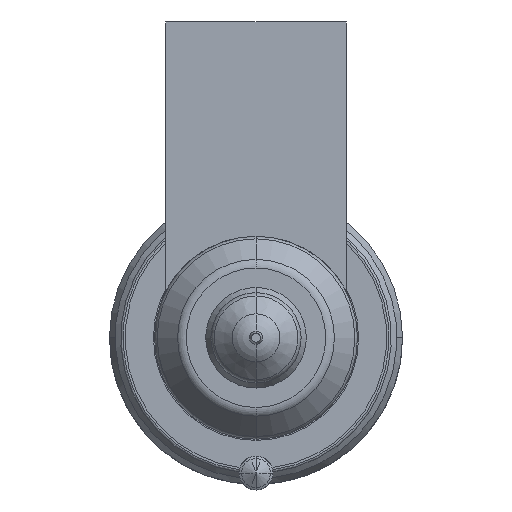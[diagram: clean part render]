
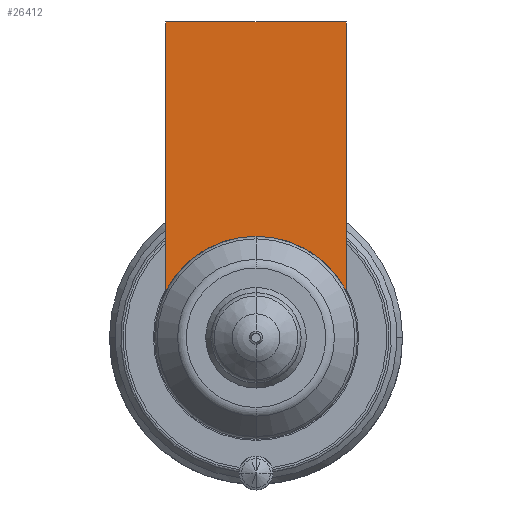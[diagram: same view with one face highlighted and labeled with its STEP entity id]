
A CAD part, front view. The second image highlights one B-rep face of the part: STEP entity #26412.
In plain terms, the highlighted planar face has unit normal (0, -1, 0).
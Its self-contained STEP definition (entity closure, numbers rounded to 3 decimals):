
#25529=DIRECTION('',(1.,0.,0.));
#25530=VECTOR('',#25529,16.);
#25531=CARTESIAN_POINT('',(-8.,-54.,28.));
#25532=LINE('',#25531,#25530);
#25537=CARTESIAN_POINT('',(0.,-54.,0.));
#25538=DIRECTION('',(0.,-1.,0.));
#25539=DIRECTION('',(0.889,0.,0.458));
#25540=AXIS2_PLACEMENT_3D('',#25537,#25538,#25539);
#25545=CARTESIAN_POINT('',(0.,-54.,0.));
#25546=DIRECTION('',(0.,-1.,0.));
#25547=DIRECTION('',(0.,0.,1.));
#25548=AXIS2_PLACEMENT_3D('',#25545,#25546,#25547);
#25574=DIRECTION('',(0.,0.,-1.));
#25575=VECTOR('',#25574,23.877);
#25576=CARTESIAN_POINT('',(-8.,-54.,28.));
#25577=LINE('',#25576,#25575);
#26256=DIRECTION('',(0.,0.,-1.));
#26257=VECTOR('',#26256,23.877);
#26258=CARTESIAN_POINT('',(8.,-54.,28.));
#26259=LINE('',#26258,#26257);
#26309=CARTESIAN_POINT('',(-8.,-54.,28.));
#26310=VERTEX_POINT('',#26309);
#26315=CARTESIAN_POINT('',(8.,-54.,28.));
#26316=VERTEX_POINT('',#26315);
#26319=CARTESIAN_POINT('',(-8.,-54.,4.123));
#26320=VERTEX_POINT('',#26319);
#26323=CARTESIAN_POINT('',(8.,-54.,4.123));
#26324=VERTEX_POINT('',#26323);
#26393=CARTESIAN_POINT('',(0.,-54.,9.));
#26394=VERTEX_POINT('',#26393);
#26395=CARTESIAN_POINT('',(0.,-54.,9.));
#26396=DIRECTION('',(0.,1.,0.));
#26397=DIRECTION('',(0.,0.,-1.));
#26398=AXIS2_PLACEMENT_3D('',#26395,#26396,#26397);
#26399=PLANE('',#26398);
#26401=ORIENTED_EDGE('',*,*,#26400,.F.);
#26403=ORIENTED_EDGE('',*,*,#26402,.T.);
#26405=ORIENTED_EDGE('',*,*,#26404,.T.);
#26407=ORIENTED_EDGE('',*,*,#26406,.T.);
#26409=ORIENTED_EDGE('',*,*,#26408,.T.);
#26410=EDGE_LOOP('',(#26401,#26403,#26405,#26407,#26409));
#26411=FACE_OUTER_BOUND('',#26410,.F.);
#26412=ADVANCED_FACE('',(#26411),#26399,.F.);
#25541=CIRCLE('',#25540,9.);
#25549=CIRCLE('',#25548,9.);
#26400=EDGE_CURVE('',#26310,#26320,#25577,.T.);
#26402=EDGE_CURVE('',#26310,#26316,#25532,.T.);
#26404=EDGE_CURVE('',#26316,#26324,#26259,.T.);
#26406=EDGE_CURVE('',#26324,#26394,#25541,.T.);
#26408=EDGE_CURVE('',#26394,#26320,#25549,.T.);
